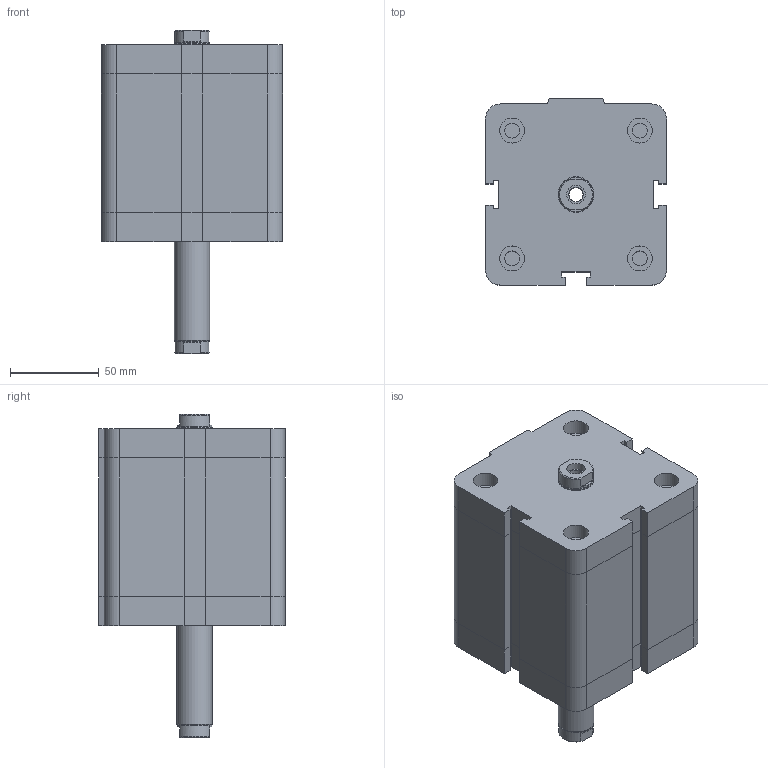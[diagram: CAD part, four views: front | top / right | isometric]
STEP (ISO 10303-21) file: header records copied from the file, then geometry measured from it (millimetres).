
FILE_DESCRIPTION((''),'2;1');
FILE_NAME('I:\Area Tecnica\Disegni\VARIE-3D\Componenti\EUROPE\15##_###_####_06_#\1561_80_0055_06_1.iam.stp','2009-04-20T15:06:57',(''),(''),'Autodesk Inventor 2009','Autodesk Inventor 2009','');
FILE_SCHEMA(('AUTOMOTIVE_DESIGN { 1 0 10303 214 1 1 1 1 }'));
Length unit declared in the file: millimetre
Products named in the file (3): 1561_80_0055_06_1; 1561_80_0055_03_1_C; 1561_80_0055_06_1_S
Assembly tree (2 placements, depth 2):
  1561_80_0055_06_1
    1561_80_0055_03_1_C
    1561_80_0055_06_1_S
Bounding box: 102 x 105 x 182 mm (x, y, z)
Volume: 1118536.9 mm3; surface area: 101690.4 mm2
Topology: 2 solids, 2 shells, 175 faces, 382 edges, 233 vertices
Faces by surface type: plane 114, bspline 30, cylinder 25, cone 6
Full cylindrical faces by diameter (mm): 8.376 x5, 10.3 x1, 14 x4, 19.5 x2, 20 x1
Entity records: 4805 total; most frequent: CARTESIAN_POINT 1042, DIRECTION 712, ORIENTED_EDGE 680, EDGE_CURVE 340, VECTOR 252, LINE 252, AXIS2_PLACEMENT_3D 230, EDGE_LOOP 230
